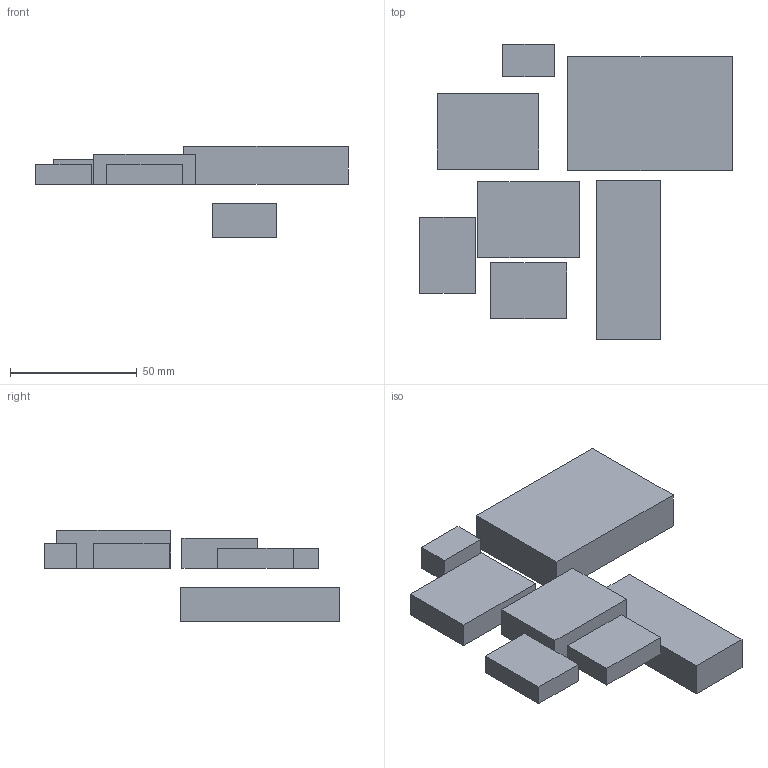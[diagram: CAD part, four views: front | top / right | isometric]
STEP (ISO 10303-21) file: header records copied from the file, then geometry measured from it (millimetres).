
FILE_DESCRIPTION(('DECLARED MAXIMUM envelopes of the thirteen module assemblies. No vendor drawing was consulted. ASM-EEG-023 MECH-D6.'),'2;1');
FILE_NAME('EEG-CAR-01_RevC_module_envelopes','2026-09-08T00:00:00',('TI One Voice research programme'),(''),'EEG-CAR-01 step_write.py','','CC BY-SA 4.0');
FILE_SCHEMA(('AUTOMOTIVE_DESIGN { 1 0 10303 214 1 1 1 1 }'));
Length unit declared in the file: millimetre
Products named in the file (7): ESP32-S3-DevKitC-1_body; M3_audio_codec; M4_USB_isolator; M5_secure_element; M6_charger; M7_fuel_gauge; M8_buck-boost
Bounding box: 123.5 x 116.73 x 36 mm (x, y, z)
Volume: 105294.6 mm3; surface area: 28140.4 mm2
Topology: 7 solids, 7 shells, 42 faces, 84 edges, 56 vertices
Faces by surface type: plane 42
Entity records: 415 total; most frequent: DIRECTION 86, CARTESIAN_POINT 57, AXIS2_PLACEMENT_3D 43, POLY_LOOP 42, FACE_OUTER_BOUND 42, PLANE 42, FACE_SURFACE 42, CLOSED_SHELL 7
